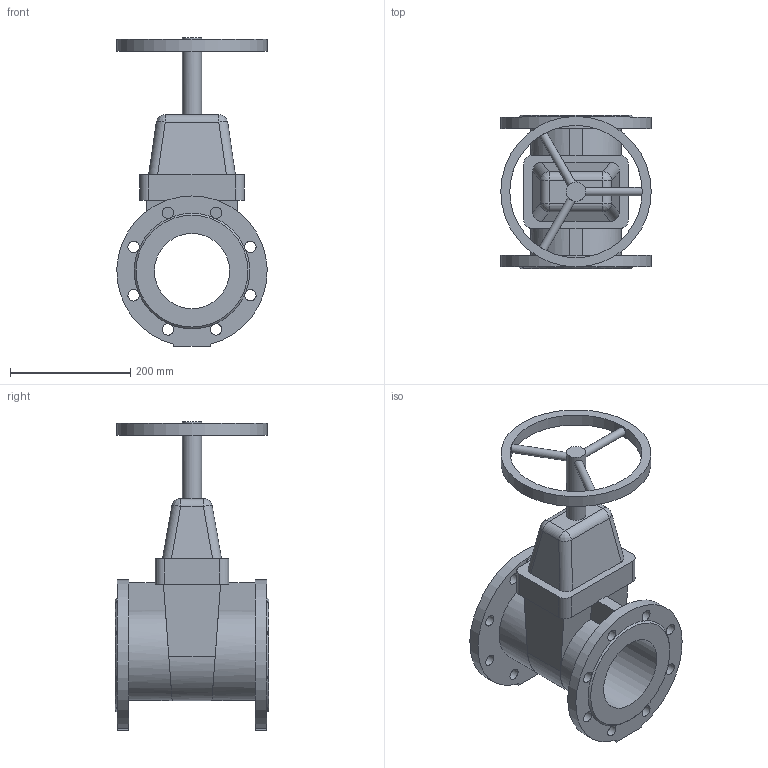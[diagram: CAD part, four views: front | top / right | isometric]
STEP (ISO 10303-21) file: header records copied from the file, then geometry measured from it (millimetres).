
FILE_DESCRIPTION(('STEP AP203'), '1');
FILE_NAME('Çàäâèæêà 47GV DN125 PN10_PN16_L255 ñ ìàõîâèêîì', '', ('UNSPECIFIED'), ('UNSPECIFIED'), 'ASCON STEP Converter 1.6', 'ASCON Math Kernel', '');
FILE_SCHEMA(('CONFIG_CONTROL_DESIGN'));
Length unit declared in the file: millimetre
Bounding box: 250 x 255 x 513 mm (x, y, z)
Volume: 5784109.6 mm3; surface area: 561011.8 mm2
Topology: 1 solids, 1 shells, 108 faces, 319 edges, 204 vertices
Faces by surface type: plane 54, cylinder 48, bspline 4, cone 2
Full cylindrical faces by diameter (mm): 14 x3, 19 x16, 32 x1, 125 x1, 220 x1, 250 x1
Entity records: 5935 total; most frequent: CARTESIAN_POINT 2193, ORIENTED_EDGE 580, DIRECTION 578, EDGE_CURVE 290, AXIS2_PLACEMENT_3D 221, VERTEX_POINT 204, EDGE_LOOP 168, FACE_BOUND 136
